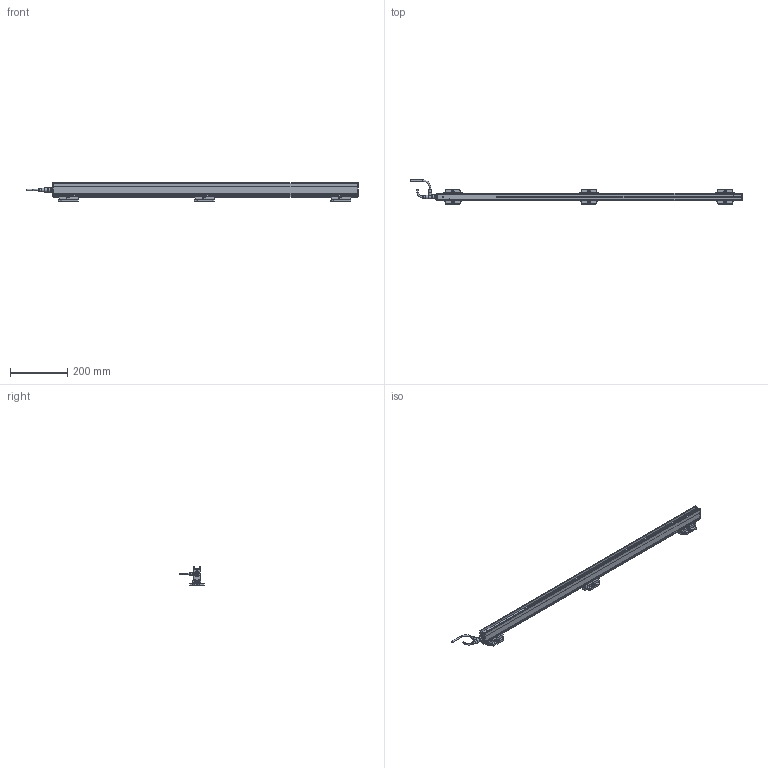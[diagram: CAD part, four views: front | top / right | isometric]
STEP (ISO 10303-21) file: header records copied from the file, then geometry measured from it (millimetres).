
FILE_DESCRIPTION(('Bauteilbeschreibung','HiCAD-Model','HiCAD-STEP-TRANSLATION','Bauteilbeschreibung'),'2;1');
FILE_NAME('PERFORMAXIQEASY_990-1080_3D.STP','2014-03-05T11:31:20+00:00',('Konstrukteur'),('Konstrukteur Firma GmbH'),' HiCAD 2011, Step 1600.0 ','HiCAD 2011','confidential');
FILE_SCHEMA(('AUTOMOTIVE_DESIGN { 1 2 10303 214 0 1 1 1 }'));
Products named in the file (43): PERFORMAXIQEASY_990_1080_3D; A_PERFORMAX IQ EASY 990_1080; A_PERFORMAX IQ EASY SPEED; A_CAP DE; A_CAP CE_5; GROUP; PIN; GROUP0; PIN0; LED_2C_3MM; LED02C03MM; A519020315_CONNECTOR APPLIANCE; A_INSERT; A_CONTACTS; A_HOUSING; A_PROFILE; A_POTTING; A532000100_BRACKET BARS_ MOUNT; A_SIDE PIECE; A0SIDE0PIECE; A_BRACKET SMALL; A_SLIDE PIECE; A5320001000BRACKET0BARS00MOUNT; A0SIDE0PIECE0; A0SIDE0PIECE1; A0BRACKET0SMALL; A0SLIDE0PIECE; A5320001000BRACKET0BARS00MOUNT0; A0SIDE0PIECE2; A0SIDE0PIECE3; A0BRACKET0SMALL0; A0SLIDE0PIECE0; A_CONNECTOR STRAIGHT; EXTRUDED SOLID_0; DRAAD GEBOGEN; REVOLVED SOLID_1; REVOLVED SOLID_3; A_CONNECTOR ANGLED; REVOLVED0SOLID01; EXTRUDED0SOLID00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
Assembly tree (42 placements, depth 5):
  PERFORMAXIQEASY_990_1080_3D
    A_PERFORMAX IQ EASY 990_1080
      A_PERFORMAX IQ EASY SPEED
        A_CAP DE
        A_CAP CE_5
        GROUP
          PIN
        GROUP0
          PIN0
        LED_2C_3MM
        LED02C03MM
        A519020315_CONNECTOR APPLIANCE
          A_INSERT
          A_CONTACTS
          A_HOUSING
        A_PROFILE
        A_POTTING
      A532000100_BRACKET BARS_ MOUNT
        A_SIDE PIECE
        A0SIDE0PIECE
        A_BRACKET SMALL
        A_SLIDE PIECE
      A5320001000BRACKET0BARS00MOUNT
        A0SIDE0PIECE0
        A0SIDE0PIECE1
        A0BRACKET0SMALL
        A0SLIDE0PIECE
      A5320001000BRACKET0BARS00MOUNT0
        A0SIDE0PIECE2
        A0SIDE0PIECE3
        A0BRACKET0SMALL0
        A0SLIDE0PIECE0
      A_CONNECTOR STRAIGHT
        EXTRUDED SOLID_0
        DRAAD GEBOGEN
        REVOLVED SOLID_1
        REVOLVED SOLID_3
      A_CONNECTOR ANGLED
        REVOLVED0SOLID01
        EXTRUDED0SOLID00
        C_EDGE SWEEP_0
        REVOLVED SOLID_2
        REVOLVED0SOLID03
Bounding box: 1157.89 x 84.27 x 63.13 mm (x, y, z)
Volume: 1147080.4 mm3; surface area: 308360.6 mm2
Topology: 37 solids, 37 shells, 2679 faces, 6859 edges, 4095 vertices
Faces by surface type: cylinder 1117, plane 1033, sphere 167, torus 158, bspline 128, cone 76
Full cylindrical faces by diameter (mm): 0.8 x10, 1 x5, 2.387 x6, 3 x15, 3.1 x1, 4.2 x2, 5 x4, 5.5 x15, 8 x2, 8.2 x1, 8.4 x2, 8.945 x1, 9 x2, 10.2 x1, 10.5 x3, 11 x1, 12 x3, 12.8 x1, 13.8 x4, 14.5 x3
Entity records: 123325 total; most frequent: CARTESIAN_POINT 28458, DIRECTION 13337, ORIENTED_EDGE 12962, EDGE_CURVE 6481, COLOUR_RGB 6168, PRESENTATION_STYLE_ASSIGNMENT 6168, OVER_RIDING_STYLED_ITEM 6136, CURVE_STYLE 6131
